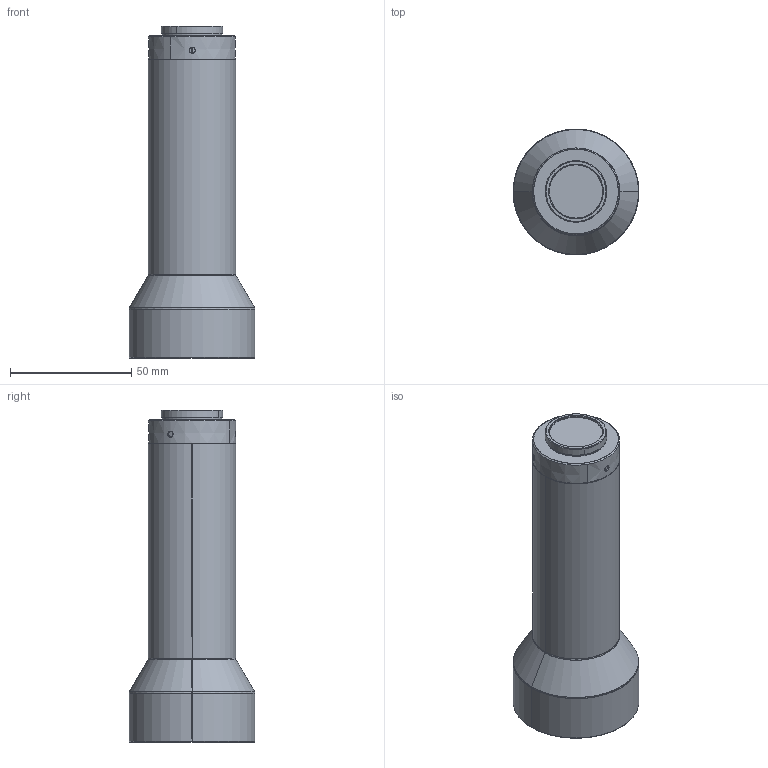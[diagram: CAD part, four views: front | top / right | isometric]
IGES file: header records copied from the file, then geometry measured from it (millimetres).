
Start section: SolidWorks IGES file using analytic representation for surfaces
Global section: file name: E:\图纸\镜头\WWK\K05063-110系列\WWK063-110-111V3\A3.0\发客户3D\WWK063-110-111V3.IGS; native system: SolidWorks 2017; preprocessor: SolidWorks 2017; author: gc; date: 230323.175133; units: millimetre
Bounding box: 52 x 52 x 137.16 mm (x, y, z)
Surface area: 20436.3 mm2 (no closed solid volume)
Topology: 0 solids, 0 shells, 49 faces, 1006 edges, 1006 vertices
Faces by surface type: revolution 38, bspline 11
